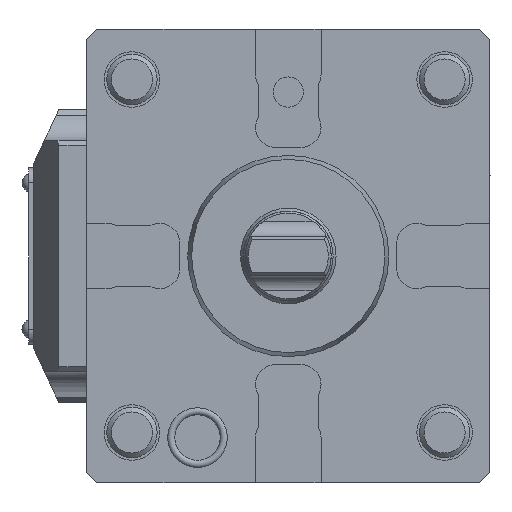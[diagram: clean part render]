
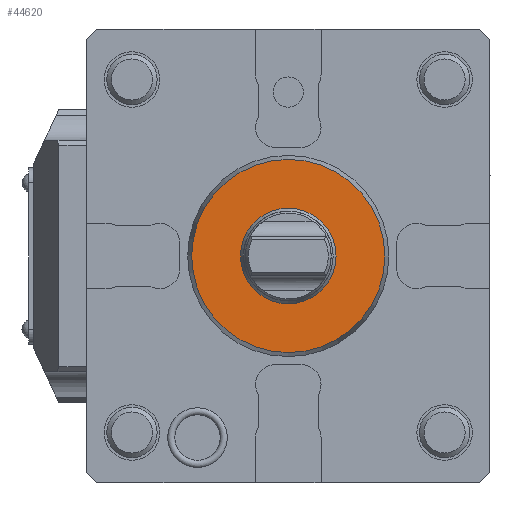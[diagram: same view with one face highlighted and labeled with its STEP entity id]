
A CAD part, left-side view. The second image highlights one B-rep face of the part: STEP entity #44620.
In plain terms, the highlighted planar face has unit normal (-1, 0, 0).
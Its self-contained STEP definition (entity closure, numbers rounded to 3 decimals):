
#21407=PLANE('',#43230);
#21882=ORIENTED_EDGE('',*,*,#26778,.F.);
#21883=ORIENTED_EDGE('',*,*,#26777,.T.);
#25180=CIRCLE('',#43229,9.477);
#25181=CIRCLE('',#43231,19.146);
#25617=VERTEX_POINT('',#33673);
#25618=VERTEX_POINT('',#33676);
#26777=EDGE_CURVE('',#25617,#25617,#25180,.T.);
#26778=EDGE_CURVE('',#25618,#25618,#25181,.T.);
#28429=EDGE_LOOP('',(#21882));
#28430=EDGE_LOOP('',(#21883));
#29372=FACE_BOUND('',#28429,.T.);
#29373=FACE_BOUND('',#28430,.T.);
#30328=DIRECTION('',(1.,0.,0.));
#30329=DIRECTION('',(0.,-9.477,0.));
#30330=DIRECTION('',(-1.,0.,0.));
#30331=DIRECTION('',(0.,1.,0.));
#30332=DIRECTION('',(1.,0.,0.));
#30333=DIRECTION('',(0.,0.,-19.146));
#33673=CARTESIAN_POINT('',(-32.,-9.477,0.));
#33674=CARTESIAN_POINT('',(-32.,0.,0.));
#33675=CARTESIAN_POINT('',(-32.,0.,-19.146));
#33676=CARTESIAN_POINT('',(-32.,0.,-19.146));
#33677=CARTESIAN_POINT('',(-32.,0.,0.));
#43229=AXIS2_PLACEMENT_3D('',#33674,#30328,#30329);
#43230=AXIS2_PLACEMENT_3D('',#33675,#30330,#30331);
#43231=AXIS2_PLACEMENT_3D('',#33677,#30332,#30333);
#44620=ADVANCED_FACE('',(#29372,#29373),#21407,.T.);
